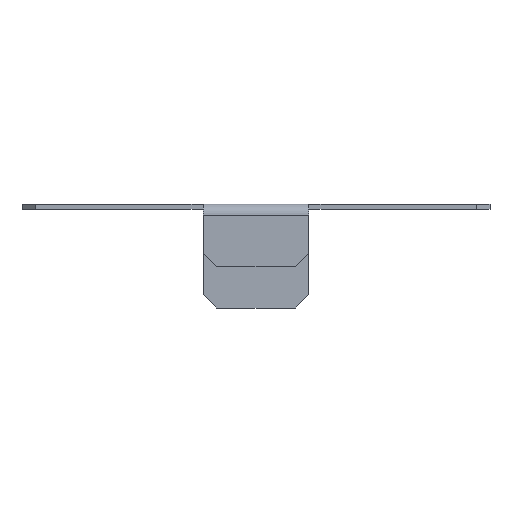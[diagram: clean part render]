
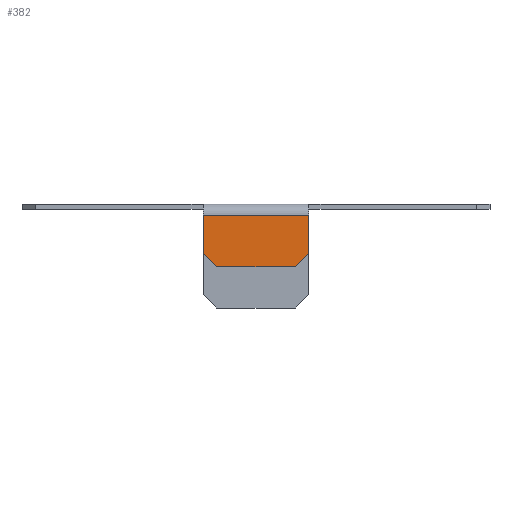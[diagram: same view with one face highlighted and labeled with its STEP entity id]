
A CAD part, front view. The second image highlights one B-rep face of the part: STEP entity #382.
In plain terms, the highlighted planar face has unit normal (0, -1, 0).
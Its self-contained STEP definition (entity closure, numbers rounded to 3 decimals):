
#27 = VECTOR ( 'NONE', #569, 1000. ) ;
#38 = VECTOR ( 'NONE', #575, 1000. ) ;
#115 = VECTOR ( 'NONE', #1111, 1000. ) ;
#127 = VECTOR ( 'NONE', #1031, 1000. ) ;
#128 = VECTOR ( 'NONE', #1023, 1000. ) ;
#129 = VECTOR ( 'NONE', #1021, 1000. ) ;
#190 = AXIS2_PLACEMENT_3D ( 'NONE', #1182, #1184, #1183 ) ;
#202 = FACE_OUTER_BOUND ( 'NONE', #856, .T. ) ;
#330 = EDGE_CURVE ( 'NONE', #926, #922, #573, .T. ) ;
#332 = EDGE_CURVE ( 'NONE', #918, #926, #567, .T. ) ;
#333 = EDGE_CURVE ( 'NONE', #918, #924, #565, .T. ) ;
#334 = EDGE_CURVE ( 'NONE', #929, #924, #1020, .T. ) ;
#335 = EDGE_CURVE ( 'NONE', #929, #919, #1029, .T. ) ;
#346 = EDGE_CURVE ( 'NONE', #922, #919, #1121, .T. ) ;
#382 = ADVANCED_FACE ( 'NONE', ( #202 ), #1185, .F. ) ;
#565 = LINE ( 'NONE', #566, #129 ) ;
#566 = CARTESIAN_POINT ( 'NONE',  ( -10.25, -49.5, -16.3 ) ) ;
#567 = LINE ( 'NONE', #568, #27 ) ;
#568 = CARTESIAN_POINT ( 'NONE',  ( -13.75, -49.5, -27. ) ) ;
#569 = DIRECTION ( 'NONE',  ( 0., 0., 1. ) ) ;
#573 = LINE ( 'NONE', #574, #38 ) ;
#574 = CARTESIAN_POINT ( 'NONE',  ( 13.75, -49.5, -2.9 ) ) ;
#575 = DIRECTION ( 'NONE',  ( 1., 0., 0. ) ) ;
#856 = EDGE_LOOP ( 'NONE', ( #1009, #1013, #1008, #1011, #1012, #1016 ) ) ;
#918 = VERTEX_POINT ( 'NONE', #1369 ) ;
#919 = VERTEX_POINT ( 'NONE', #1311 ) ;
#922 = VERTEX_POINT ( 'NONE', #1332 ) ;
#924 = VERTEX_POINT ( 'NONE', #1374 ) ;
#926 = VERTEX_POINT ( 'NONE', #1312 ) ;
#929 = VERTEX_POINT ( 'NONE', #1365 ) ;
#1008 = ORIENTED_EDGE ( 'NONE', *, *, #346, .F. ) ;
#1009 = ORIENTED_EDGE ( 'NONE', *, *, #334, .F. ) ;
#1011 = ORIENTED_EDGE ( 'NONE', *, *, #330, .F. ) ;
#1012 = ORIENTED_EDGE ( 'NONE', *, *, #332, .F. ) ;
#1013 = ORIENTED_EDGE ( 'NONE', *, *, #335, .T. ) ;
#1016 = ORIENTED_EDGE ( 'NONE', *, *, #333, .T. ) ;
#1020 = LINE ( 'NONE', #1022, #128 ) ;
#1021 = DIRECTION ( 'NONE',  ( 0.707, 0., -0.707 ) ) ;
#1022 = CARTESIAN_POINT ( 'NONE',  ( 13.75, -49.5, -16.3 ) ) ;
#1023 = DIRECTION ( 'NONE',  ( -1., 0., 0. ) ) ;
#1028 = CARTESIAN_POINT ( 'NONE',  ( 13.75, -49.5, -12.8 ) ) ;
#1029 = LINE ( 'NONE', #1028, #127 ) ;
#1031 = DIRECTION ( 'NONE',  ( 0.707, 0., 0.707 ) ) ;
#1111 = DIRECTION ( 'NONE',  ( 0., 0., -1. ) ) ;
#1116 = CARTESIAN_POINT ( 'NONE',  ( 13.75, -49.5, -1.4 ) ) ;
#1121 = LINE ( 'NONE', #1116, #115 ) ;
#1182 = CARTESIAN_POINT ( 'NONE',  ( 13.75, -49.5, -27. ) ) ;
#1183 = DIRECTION ( 'NONE',  ( 0., 0., 1. ) ) ;
#1184 = DIRECTION ( 'NONE',  ( 0., 1., 0. ) ) ;
#1185 = PLANE ( 'NONE',  #190 ) ;
#1311 = CARTESIAN_POINT ( 'NONE',  ( 13.75, -49.5, -12.8 ) ) ;
#1312 = CARTESIAN_POINT ( 'NONE',  ( -13.75, -49.5, -2.9 ) ) ;
#1332 = CARTESIAN_POINT ( 'NONE',  ( 13.75, -49.5, -2.9 ) ) ;
#1365 = CARTESIAN_POINT ( 'NONE',  ( 10.25, -49.5, -16.3 ) ) ;
#1369 = CARTESIAN_POINT ( 'NONE',  ( -13.75, -49.5, -12.8 ) ) ;
#1374 = CARTESIAN_POINT ( 'NONE',  ( -10.25, -49.5, -16.3 ) ) ;
